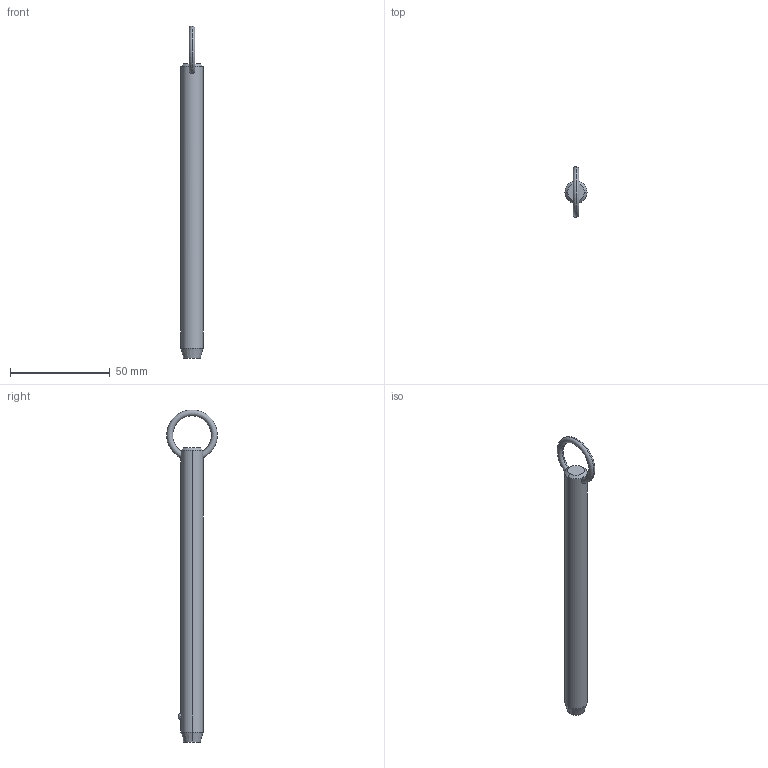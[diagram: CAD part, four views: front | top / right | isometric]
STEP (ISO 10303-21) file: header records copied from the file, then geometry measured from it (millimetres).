
FILE_DESCRIPTION (( 'STEP AP203' ), '1' );
FILE_NAME ('P1250.050-500.step', '2019-07-29T20:38:32', ( '' ), ( '' ), 'SwSTEP 2.0', 'SolidWorks 2017', '' );
FILE_SCHEMA (( 'CONFIG_CONTROL_DESIGN' ));
Length unit declared in the file: millimetre
Products named in the file (1): P1250.050-500
Bounding box: 11.1 x 25.32 x 166.55 mm (x, y, z)
Volume: 14565.8 mm3; surface area: 5799.7 mm2
Topology: 1 solids, 1 shells, 12 faces, 28 edges, 17 vertices
Faces by surface type: cone 4, torus 2, sphere 2, cylinder 2, plane 2
Entity records: 523 total; most frequent: CARTESIAN_POINT 190, DIRECTION 56, ORIENTED_EDGE 48, AXIS2_PLACEMENT_3D 25, EDGE_CURVE 24, VERTEX_POINT 15, EDGE_LOOP 15, FACE_OUTER_BOUND 12
